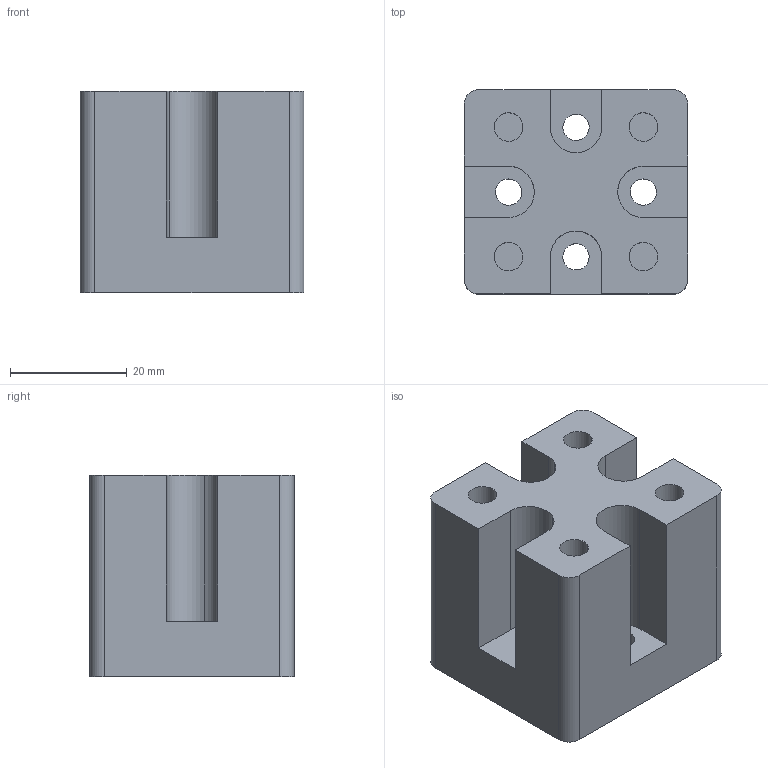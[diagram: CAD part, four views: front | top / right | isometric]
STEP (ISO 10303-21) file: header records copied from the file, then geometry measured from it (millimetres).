
FILE_DESCRIPTION(('CATIA V5 STEP Exchange'),'2;1');
FILE_NAME('D:\姚明阳\1、工装图纸\AGZ131\AGZ131.05_V1.stp','2025-02-06T03:47:10+00:00',('none'),('none'),'CATIA Version 5 Release 20 GA (IN-10)','CATIA V5 STEP AP203','none');
FILE_SCHEMA(('CONFIG_CONTROL_DESIGN'));
Length unit declared in the file: millimetre
Products named in the file (1): AGZ131.05_V1
Bounding box: 38.3 x 35 x 34.5 mm (x, y, z)
Volume: 35117.4 mm3; surface area: 10819 mm2
Topology: 1 solids, 1 shells, 50 faces, 132 edges, 88 vertices
Faces by surface type: cylinder 28, plane 22
Entity records: 1464 total; most frequent: ORIENTED_EDGE 264, CARTESIAN_POINT 249, DIRECTION 188, EDGE_CURVE 132, VERTEX_POINT 88, AXIS2_PLACEMENT_3D 85, VECTOR 76, LINE 76
